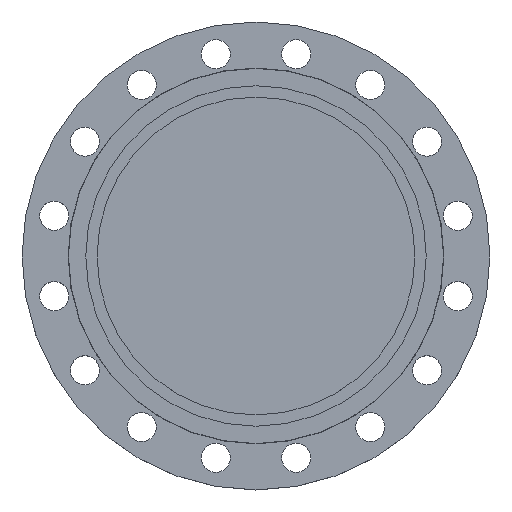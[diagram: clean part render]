
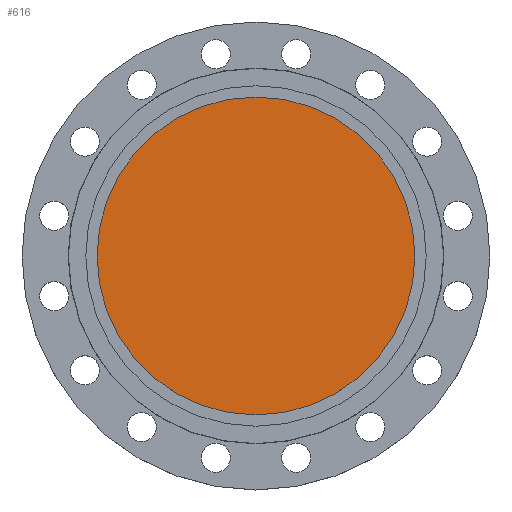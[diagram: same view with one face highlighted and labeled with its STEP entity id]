
A CAD part, top view. The second image highlights one B-rep face of the part: STEP entity #616.
In plain terms, the highlighted planar face has unit normal (0, 0, 1).
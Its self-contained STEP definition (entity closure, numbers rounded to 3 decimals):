
#53 = CIRCLE ( 'NONE', #75, 197. ) ;
#75 = AXIS2_PLACEMENT_3D ( 'NONE', #468, #466, #465 ) ;
#98 = CARTESIAN_POINT ( 'NONE',  ( -197., 0., 0. ) ) ;
#102 = CARTESIAN_POINT ( 'NONE',  ( 197., 0., 0. ) ) ;
#378 = DIRECTION ( 'NONE',  ( -1., 0., 0. ) ) ;
#379 = DIRECTION ( 'NONE',  ( 0., 0., -1. ) ) ;
#380 = CARTESIAN_POINT ( 'NONE',  ( 0., 0., 0. ) ) ;
#465 = DIRECTION ( 'NONE',  ( -1., 0., 0. ) ) ;
#466 = DIRECTION ( 'NONE',  ( 0., 0., -1. ) ) ;
#468 = CARTESIAN_POINT ( 'NONE',  ( 0., 0., 0. ) ) ;
#616 = ADVANCED_FACE ( 'NONE', ( #741 ), #740, .T. ) ;
#737 = DIRECTION ( 'NONE',  ( 1., 0., 0. ) ) ;
#738 = DIRECTION ( 'NONE',  ( 0., 0., 1. ) ) ;
#739 = CARTESIAN_POINT ( 'NONE',  ( 0., 0., 0. ) ) ;
#740 = PLANE ( 'NONE',  #976 ) ;
#741 = FACE_OUTER_BOUND ( 'NONE', #1260, .T. ) ;
#966 = EDGE_CURVE ( 'NONE', #1509, #1535, #53, .T. ) ;
#976 = AXIS2_PLACEMENT_3D ( 'NONE', #739, #738, #737 ) ;
#1087 = EDGE_CURVE ( 'NONE', #1535, #1509, #1398, .T. ) ;
#1260 = EDGE_LOOP ( 'NONE', ( #1393, #1394 ) ) ;
#1311 = AXIS2_PLACEMENT_3D ( 'NONE', #380, #379, #378 ) ;
#1393 = ORIENTED_EDGE ( 'NONE', *, *, #1087, .F. ) ;
#1394 = ORIENTED_EDGE ( 'NONE', *, *, #966, .F. ) ;
#1398 = CIRCLE ( 'NONE', #1311, 197. ) ;
#1509 = VERTEX_POINT ( 'NONE', #102 ) ;
#1535 = VERTEX_POINT ( 'NONE', #98 ) ;
